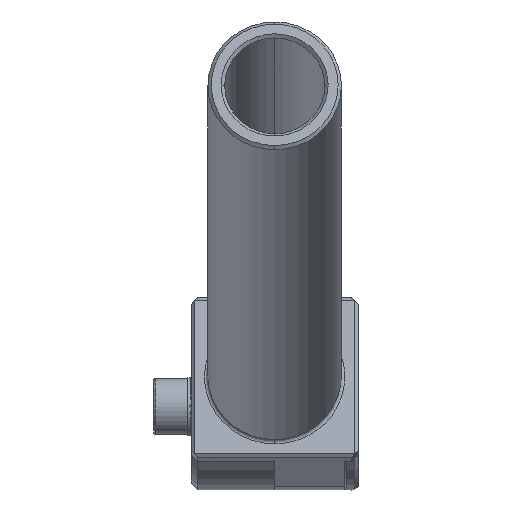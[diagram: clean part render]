
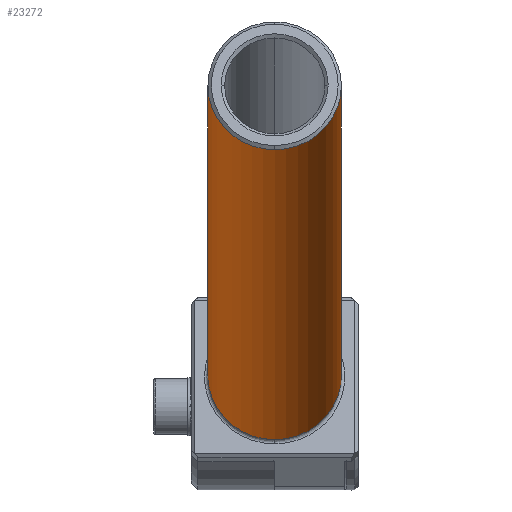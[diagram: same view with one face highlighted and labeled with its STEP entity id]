
A CAD part, left-side view. The second image highlights one B-rep face of the part: STEP entity #23272.
In plain terms, the highlighted cylindrical face has radius 10 mm (diameter 20 mm), a partial arc.
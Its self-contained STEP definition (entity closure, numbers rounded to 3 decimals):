
#823 = VERTEX_POINT ( 'NONE', #14165 ) ;
#1781 = DIRECTION ( 'NONE',  ( 0., -1., 0. ) ) ;
#2956 = CARTESIAN_POINT ( 'NONE',  ( -184.02, 11.473, 48.033 ) ) ;
#4235 = AXIS2_PLACEMENT_3D ( 'NONE', #8635, #23186, #10742 ) ;
#4629 = AXIS2_PLACEMENT_3D ( 'NONE', #22545, #10126, #20550 ) ;
#5068 = DIRECTION ( 'NONE',  ( 0.957, 0., -0.291 ) ) ;
#6633 = EDGE_CURVE ( 'NONE', #25072, #8529, #18939, .T. ) ;
#7795 = DIRECTION ( 'NONE',  ( 0.957, 0., -0.291 ) ) ;
#8231 = ORIENTED_EDGE ( 'NONE', *, *, #17509, .F. ) ;
#8460 = DIRECTION ( 'NONE',  ( -0.957, 0., 0.291 ) ) ;
#8529 = VERTEX_POINT ( 'NONE', #12060 ) ;
#8594 = ORIENTED_EDGE ( 'NONE', *, *, #22602, .F. ) ;
#8635 = CARTESIAN_POINT ( 'NONE',  ( -184.02, 21.473, 48.033 ) ) ;
#8783 = CIRCLE ( 'NONE', #15325, 10. ) ;
#9770 = VECTOR ( 'NONE', #5068, 1000. ) ;
#10126 = DIRECTION ( 'NONE',  ( 0.957, 0., -0.291 ) ) ;
#10742 = DIRECTION ( 'NONE',  ( -0.291, 0., -0.957 ) ) ;
#11776 = VERTEX_POINT ( 'NONE', #20232 ) ;
#12060 = CARTESIAN_POINT ( 'NONE',  ( -186.935, 21.473, 38.467 ) ) ;
#12432 = CARTESIAN_POINT ( 'NONE',  ( -41.49, 31.473, 4.605 ) ) ;
#12917 = ORIENTED_EDGE ( 'NONE', *, *, #6633, .F. ) ;
#12933 = ORIENTED_EDGE ( 'NONE', *, *, #21869, .F. ) ;
#13334 = VERTEX_POINT ( 'NONE', #12432 ) ;
#14155 = DIRECTION ( 'NONE',  ( -0.957, 0., 0.291 ) ) ;
#14165 = CARTESIAN_POINT ( 'NONE',  ( -44.404, 21.473, -4.961 ) ) ;
#14644 = EDGE_LOOP ( 'NONE', ( #12933, #8231, #12917, #25646, #8594, #24503 ) ) ;
#15286 = LINE ( 'NONE', #2956, #9770 ) ;
#15325 = AXIS2_PLACEMENT_3D ( 'NONE', #26645, #14155, #1781 ) ;
#15409 = VECTOR ( 'NONE', #21062, 1000. ) ;
#16063 = AXIS2_PLACEMENT_3D ( 'NONE', #20213, #7795, #22317 ) ;
#16275 = VERTEX_POINT ( 'NONE', #16616 ) ;
#16616 = CARTESIAN_POINT ( 'NONE',  ( -184.02, 11.473, 48.033 ) ) ;
#16864 = CARTESIAN_POINT ( 'NONE',  ( -184.02, 31.473, 48.033 ) ) ;
#17064 = CYLINDRICAL_SURFACE ( 'NONE', #4629, 10. ) ;
#17081 = AXIS2_PLACEMENT_3D ( 'NONE', #20923, #8460, #22997 ) ;
#17509 = EDGE_CURVE ( 'NONE', #8529, #16275, #25651, .T. ) ;
#18939 = CIRCLE ( 'NONE', #17081, 10. ) ;
#19978 = CARTESIAN_POINT ( 'NONE',  ( -184.02, 31.473, 48.033 ) ) ;
#20213 = CARTESIAN_POINT ( 'NONE',  ( -41.49, 21.473, 4.605 ) ) ;
#20232 = CARTESIAN_POINT ( 'NONE',  ( -41.49, 11.473, 4.605 ) ) ;
#20550 = DIRECTION ( 'NONE',  ( 0., 1., 0. ) ) ;
#20923 = CARTESIAN_POINT ( 'NONE',  ( -184.02, 21.473, 48.033 ) ) ;
#21062 = DIRECTION ( 'NONE',  ( 0.957, 0., -0.291 ) ) ;
#21869 = EDGE_CURVE ( 'NONE', #16275, #11776, #15286, .T. ) ;
#22115 = EDGE_CURVE ( 'NONE', #823, #11776, #8783, .T. ) ;
#22317 = DIRECTION ( 'NONE',  ( -0.291, 0., -0.957 ) ) ;
#22545 = CARTESIAN_POINT ( 'NONE',  ( -184.02, 21.473, 48.033 ) ) ;
#22602 = EDGE_CURVE ( 'NONE', #823, #13334, #26307, .T. ) ;
#22997 = DIRECTION ( 'NONE',  ( -0.291, 0., -0.957 ) ) ;
#23186 = DIRECTION ( 'NONE',  ( -0.957, 0., 0.291 ) ) ;
#23272 = ADVANCED_FACE ( 'NONE', ( #24587 ), #17064, .T. ) ;
#23925 = EDGE_CURVE ( 'NONE', #25072, #13334, #26474, .T. ) ;
#24503 = ORIENTED_EDGE ( 'NONE', *, *, #22115, .T. ) ;
#24587 = FACE_OUTER_BOUND ( 'NONE', #14644, .T. ) ;
#25072 = VERTEX_POINT ( 'NONE', #19978 ) ;
#25646 = ORIENTED_EDGE ( 'NONE', *, *, #23925, .T. ) ;
#25651 = CIRCLE ( 'NONE', #4235, 10. ) ;
#26307 = CIRCLE ( 'NONE', #16063, 10. ) ;
#26474 = LINE ( 'NONE', #16864, #15409 ) ;
#26645 = CARTESIAN_POINT ( 'NONE',  ( -41.49, 21.473, 4.605 ) ) ;
